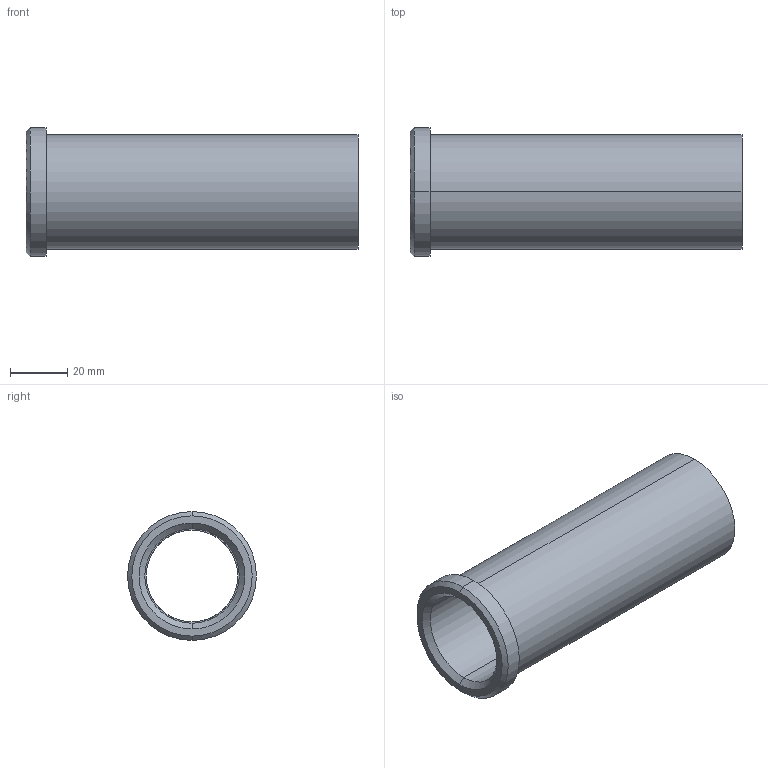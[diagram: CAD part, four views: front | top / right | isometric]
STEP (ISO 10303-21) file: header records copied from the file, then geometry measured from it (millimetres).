
FILE_DESCRIPTION(('CATIA V5 STEP Exchange'),'2;1');
FILE_NAME('C:\Users\Utente\Desktop\IO LAVORO\3D X SITO CF\X SITO\PLASTICA\353\353-32X116.stp','2021-05-12T18:51:20+00:00',('none'),('none'),'CATIA Version 5 Release 20 GA (IN-10)','CATIA V5 STEP AP203','none');
FILE_SCHEMA(('CONFIG_CONTROL_DESIGN'));
Length unit declared in the file: millimetre
Products named in the file (1): 353-32X116
Bounding box: 116 x 45 x 45 mm (x, y, z)
Volume: 51699.1 mm3; surface area: 27756.3 mm2
Topology: 1 solids, 1 shells, 18 faces, 58 edges, 44 vertices
Faces by surface type: cylinder 8, plane 4, cone 4, torus 2
Entity records: 840 total; most frequent: CARTESIAN_POINT 289, ORIENTED_EDGE 116, DIRECTION 82, EDGE_CURVE 58, AXIS2_PLACEMENT_3D 53, VERTEX_POINT 44, CIRCLE 34, EDGE_LOOP 22
